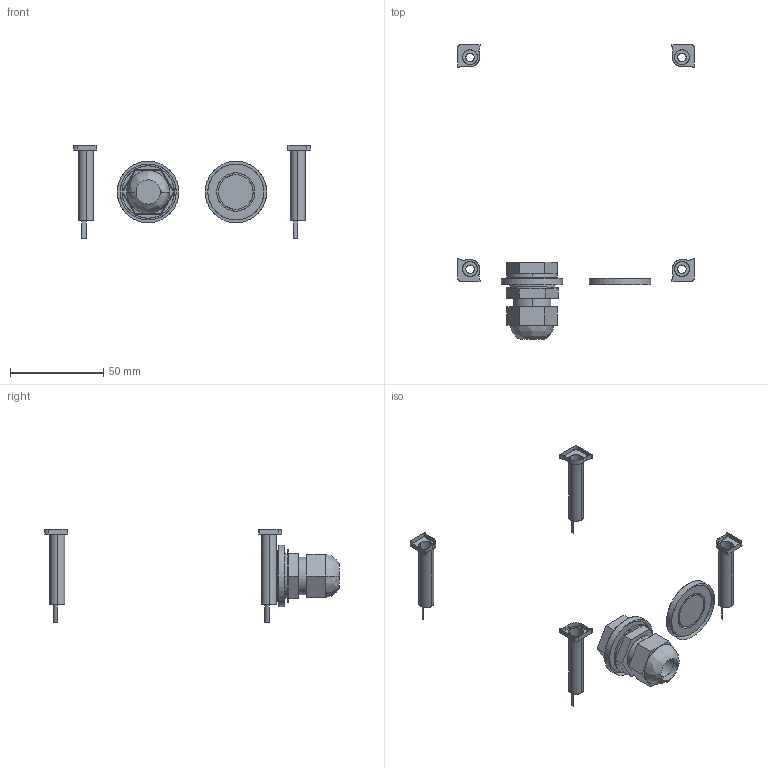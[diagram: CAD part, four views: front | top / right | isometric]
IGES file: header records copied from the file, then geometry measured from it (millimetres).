
Start section: SolidWorks IGES file using analytic representation for surfaces
Global section: file name: L:\3D Volumenmodelle\Quadro F12\QUADRO F12_with cable gland left.IGS; native system: SolidWorks 2007; preprocessor: SolidWorks 2007; author: seichler; date: 080829.092203; units: millimetre
Bounding box: 126.9 x 157.78 x 50 mm (x, y, z)
Surface area: 16404.4 mm2 (no closed solid volume)
Topology: 0 solids, 0 shells, 203 faces, 2417 edges, 2416 vertices
Faces by surface type: bspline 126, revolution 77
